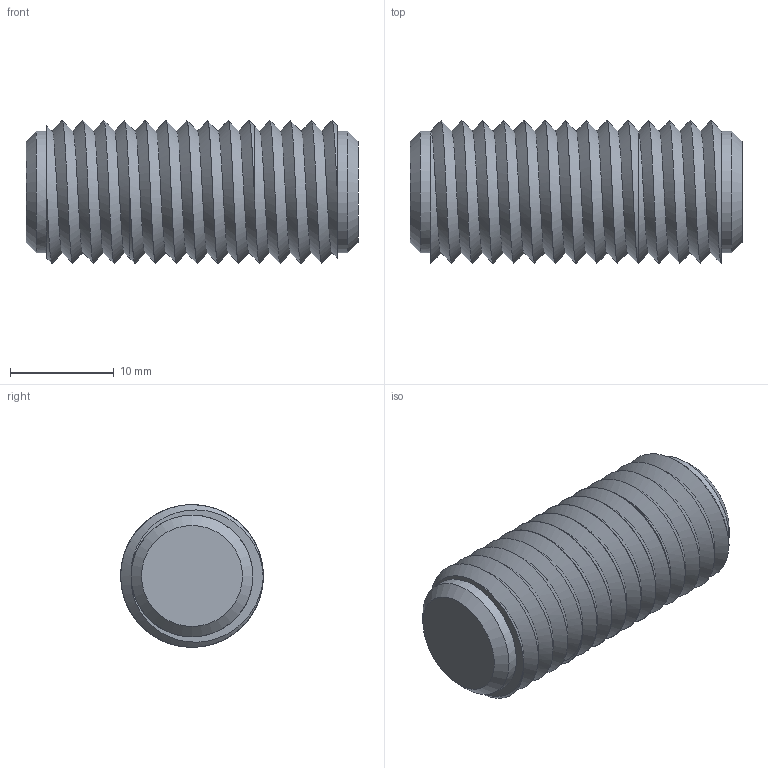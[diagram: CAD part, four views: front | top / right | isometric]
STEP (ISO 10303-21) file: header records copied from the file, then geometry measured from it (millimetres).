
FILE_DESCRIPTION(('HOOPS Exchange Step'),'2;1');
FILE_NAME('/private/var/mobile/Containers/Data/Application/E34E9B9D-13F5-4398-A6D4-3D2E6F602CF2/tmp/export/temp_export','2023-02-19T17:27:10-06:00',('mobile'),('Shapr3D Limited'),'HOOPS Exchange 2022.2','Shapr3D','Authorized');
FILE_SCHEMA( ('AUTOMOTIVE_DESIGN { 1 0 10303 214 1 1 1 1 }') );
Length unit declared in the file: millimetre
Products named in the file (1): M2M
Bounding box: 32 x 13.74 x 13.74 mm (x, y, z)
Volume: 3974.3 mm3; surface area: 1942.4 mm2
Topology: 1 solids, 1 shells, 22 faces, 60 edges, 40 vertices
Faces by surface type: cylinder 10, plane 6, bspline 4, cone 2
Full cylindrical faces by diameter (mm): 11.74 x8
Entity records: 8800 total; most frequent: CARTESIAN_POINT 8313, ORIENTED_EDGE 120, DIRECTION 74, EDGE_CURVE 60, VERTEX_POINT 40, AXIS2_PLACEMENT_3D 31, EDGE_LOOP 22, FACE_BOUND 22
